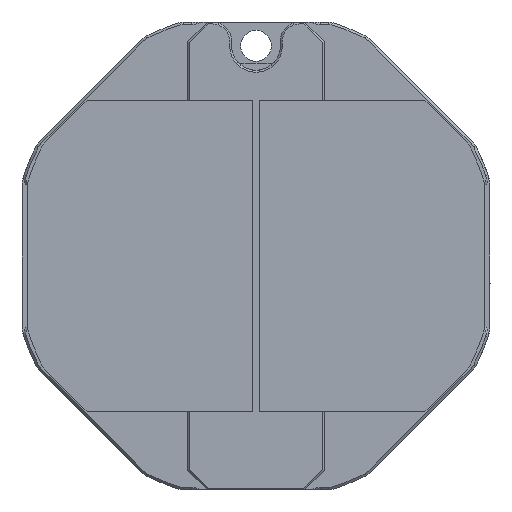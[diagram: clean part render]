
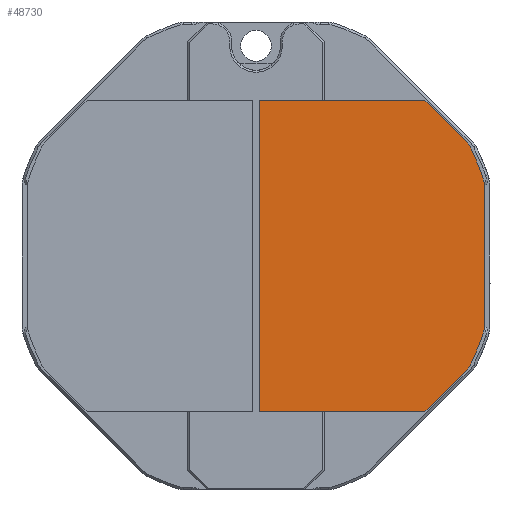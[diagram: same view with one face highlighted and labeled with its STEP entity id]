
A CAD part, left-side view. The second image highlights one B-rep face of the part: STEP entity #48730.
In plain terms, the highlighted planar face has unit normal (-1, 0, 0).
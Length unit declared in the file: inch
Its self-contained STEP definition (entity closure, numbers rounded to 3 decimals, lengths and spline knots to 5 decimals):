
#254 = DIRECTION ( 'NONE',  ( 0., -1., 0. ) ) ;
#262 = VERTEX_POINT ( 'NONE', #62951 ) ;
#369 = VECTOR ( 'NONE', #8089, 39.37008 ) ;
#786 = EDGE_CURVE ( 'NONE', #15711, #40236, #28062, .T. ) ;
#1803 = DIRECTION ( 'NONE',  ( 0., 0., 1. ) ) ;
#2812 = EDGE_CURVE ( 'NONE', #40236, #23557, #64500, .T. ) ;
#3779 = CARTESIAN_POINT ( 'NONE',  ( -5.17743, -0.23099, -1.10362 ) ) ;
#3804 = DIRECTION ( 'NONE',  ( 1., 0., 0. ) ) ;
#4089 = LINE ( 'NONE', #39516, #29197 ) ;
#5853 = VERTEX_POINT ( 'NONE', #24305 ) ;
#5890 = CIRCLE ( 'NONE', #58755, 0.2 ) ;
#6430 = AXIS2_PLACEMENT_3D ( 'NONE', #3779, #38829, #8790 ) ;
#6851 = CARTESIAN_POINT ( 'NONE',  ( -5.17743, -2.74258, 2.21958 ) ) ;
#8089 = DIRECTION ( 'NONE',  ( 0., 0.707, -0.707 ) ) ;
#8790 = DIRECTION ( 'NONE',  ( 0., 0., -1. ) ) ;
#9760 = ORIENTED_EDGE ( 'NONE', *, *, #22630, .F. ) ;
#10006 = VERTEX_POINT ( 'NONE', #22515 ) ;
#11161 = AXIS2_PLACEMENT_3D ( 'NONE', #33817, #3804, #38851 ) ;
#11216 = VECTOR ( 'NONE', #60715, 39.37008 ) ;
#11884 = DIRECTION ( 'NONE',  ( 0., 0., 1. ) ) ;
#12519 = FACE_OUTER_BOUND ( 'NONE', #32452, .T. ) ;
#13423 = DIRECTION ( 'NONE',  ( 1., 0., 0. ) ) ;
#14468 = EDGE_CURVE ( 'NONE', #10006, #36053, #4089, .T. ) ;
#14586 = EDGE_CURVE ( 'NONE', #5853, #262, #49570, .T. ) ;
#15711 = VERTEX_POINT ( 'NONE', #29109 ) ;
#16484 = EDGE_CURVE ( 'NONE', #36053, #15711, #33050, .T. ) ;
#16485 = DIRECTION ( 'NONE',  ( 0., 0., -1. ) ) ;
#16498 = VECTOR ( 'NONE', #16485, 39.37008 ) ;
#16506 = ORIENTED_EDGE ( 'NONE', *, *, #41678, .F. ) ;
#16782 = CARTESIAN_POINT ( 'NONE',  ( -5.17743, -0.23099, 2.89638 ) ) ;
#16959 = CARTESIAN_POINT ( 'NONE',  ( -5.17743, -2.92133, -0.51653 ) ) ;
#17911 = ORIENTED_EDGE ( 'NONE', *, *, #30050, .T. ) ;
#19114 = VERTEX_POINT ( 'NONE', #49397 ) ;
#19780 = VERTEX_POINT ( 'NONE', #16959 ) ;
#20617 = EDGE_CURVE ( 'NONE', #19780, #25555, #26312, .T. ) ;
#22162 = EDGE_CURVE ( 'NONE', #29600, #10006, #37370, .T. ) ;
#22515 = CARTESIAN_POINT ( 'NONE',  ( -5.17743, -2.34863, 2.89638 ) ) ;
#22630 = EDGE_CURVE ( 'NONE', #25555, #262, #28625, .T. ) ;
#23557 = VERTEX_POINT ( 'NONE', #24102 ) ;
#23879 = ORIENTED_EDGE ( 'NONE', *, *, #786, .F. ) ;
#24102 = CARTESIAN_POINT ( 'NONE',  ( -5.17743, -3.10599, 1.82509 ) ) ;
#24305 = CARTESIAN_POINT ( 'NONE',  ( -5.17743, -0.23099, -1.10362 ) ) ;
#24496 = CARTESIAN_POINT ( 'NONE',  ( -5.17743, -0.10599, 0.89638 ) ) ;
#25302 = EDGE_CURVE ( 'NONE', #19114, #19780, #36281, .T. ) ;
#25555 = VERTEX_POINT ( 'NONE', #41538 ) ;
#25707 = CARTESIAN_POINT ( 'NONE',  ( -5.17743, -0.23099, -1.10362 ) ) ;
#26258 = LINE ( 'NONE', #27099, #38020 ) ;
#26312 = CIRCLE ( 'NONE', #11161, 0.2 ) ;
#27099 = CARTESIAN_POINT ( 'NONE',  ( -5.17743, -3.10599, -1.10362 ) ) ;
#28062 = CIRCLE ( 'NONE', #61142, 3.15 ) ;
#28625 = LINE ( 'NONE', #37917, #369 ) ;
#28688 = DIRECTION ( 'NONE',  ( 1., 0., 0. ) ) ;
#29109 = CARTESIAN_POINT ( 'NONE',  ( -5.17743, -2.92133, 2.30929 ) ) ;
#29197 = VECTOR ( 'NONE', #34476, 39.37008 ) ;
#29556 = DIRECTION ( 'NONE',  ( 0., 0., 1. ) ) ;
#29600 = VERTEX_POINT ( 'NONE', #16782 ) ;
#29764 = ORIENTED_EDGE ( 'NONE', *, *, #14586, .T. ) ;
#29820 = LINE ( 'NONE', #46481, #16498 ) ;
#30050 = EDGE_CURVE ( 'NONE', #29600, #5853, #29820, .T. ) ;
#31005 = ORIENTED_EDGE ( 'NONE', *, *, #2812, .F. ) ;
#31735 = CARTESIAN_POINT ( 'NONE',  ( -5.17743, -3.09582, 1.88805 ) ) ;
#31831 = DIRECTION ( 'NONE',  ( 1., 0., 0. ) ) ;
#32452 = EDGE_LOOP ( 'NONE', ( #29764, #9760, #59831, #51769, #16506, #50861, #31005, #23879, #42281, #43749, #58334, #17911 ) ) ;
#33050 = CIRCLE ( 'NONE', #46575, 0.2 ) ;
#33817 = CARTESIAN_POINT ( 'NONE',  ( -5.17743, -2.74258, -0.42682 ) ) ;
#34476 = DIRECTION ( 'NONE',  ( 0., -0.707, -0.707 ) ) ;
#36053 = VERTEX_POINT ( 'NONE', #53890 ) ;
#36281 = CIRCLE ( 'NONE', #54709, 3.15 ) ;
#37370 = LINE ( 'NONE', #40356, #62358 ) ;
#37917 = CARTESIAN_POINT ( 'NONE',  ( -5.17743, -2.884, -0.56824 ) ) ;
#38020 = VECTOR ( 'NONE', #62068, 39.37008 ) ;
#38829 = DIRECTION ( 'NONE',  ( -1., 0., 0. ) ) ;
#38851 = DIRECTION ( 'NONE',  ( 0., 0., 1. ) ) ;
#39516 = CARTESIAN_POINT ( 'NONE',  ( -5.17743, -1.57061, 3.6744 ) ) ;
#40236 = VERTEX_POINT ( 'NONE', #31735 ) ;
#40356 = CARTESIAN_POINT ( 'NONE',  ( -5.17743, -0.23099, 2.89638 ) ) ;
#41538 = CARTESIAN_POINT ( 'NONE',  ( -5.17743, -2.884, -0.56824 ) ) ;
#41678 = EDGE_CURVE ( 'NONE', #48332, #19114, #5890, .T. ) ;
#41877 = DIRECTION ( 'NONE',  ( 1., 0., 0. ) ) ;
#42281 = ORIENTED_EDGE ( 'NONE', *, *, #16484, .F. ) ;
#43029 = EDGE_CURVE ( 'NONE', #23557, #48332, #26258, .T. ) ;
#43433 = CARTESIAN_POINT ( 'NONE',  ( -5.17743, -0.10599, 0.89638 ) ) ;
#43749 = ORIENTED_EDGE ( 'NONE', *, *, #14468, .F. ) ;
#46481 = CARTESIAN_POINT ( 'NONE',  ( -5.17743, -0.23099, -1.10362 ) ) ;
#46575 = AXIS2_PLACEMENT_3D ( 'NONE', #6851, #41877, #11884 ) ;
#48332 = VERTEX_POINT ( 'NONE', #62260 ) ;
#48446 = DIRECTION ( 'NONE',  ( 0., 0., 1. ) ) ;
#48448 = PLANE ( 'NONE',  #6430 ) ;
#48730 = ADVANCED_FACE ( 'NONE', ( #12519 ), #48448, .T. ) ;
#49397 = CARTESIAN_POINT ( 'NONE',  ( -5.17743, -3.09582, -0.09529 ) ) ;
#49570 = LINE ( 'NONE', #25707, #11216 ) ;
#50861 = ORIENTED_EDGE ( 'NONE', *, *, #43029, .F. ) ;
#51769 = ORIENTED_EDGE ( 'NONE', *, *, #25302, .F. ) ;
#52892 = AXIS2_PLACEMENT_3D ( 'NONE', #58625, #28688, #63668 ) ;
#53890 = CARTESIAN_POINT ( 'NONE',  ( -5.17743, -2.884, 2.361 ) ) ;
#54709 = AXIS2_PLACEMENT_3D ( 'NONE', #24496, #59490, #29556 ) ;
#58334 = ORIENTED_EDGE ( 'NONE', *, *, #22162, .F. ) ;
#58625 = CARTESIAN_POINT ( 'NONE',  ( -5.17743, -2.90599, 1.82509 ) ) ;
#58755 = AXIS2_PLACEMENT_3D ( 'NONE', #61796, #31831, #1803 ) ;
#59490 = DIRECTION ( 'NONE',  ( 1., 0., 0. ) ) ;
#59831 = ORIENTED_EDGE ( 'NONE', *, *, #20617, .F. ) ;
#60715 = DIRECTION ( 'NONE',  ( 0., -1., 0. ) ) ;
#61142 = AXIS2_PLACEMENT_3D ( 'NONE', #43433, #13423, #48446 ) ;
#61796 = CARTESIAN_POINT ( 'NONE',  ( -5.17743, -2.90599, -0.03233 ) ) ;
#62068 = DIRECTION ( 'NONE',  ( 0., 0., -1. ) ) ;
#62260 = CARTESIAN_POINT ( 'NONE',  ( -5.17743, -3.10599, -0.03233 ) ) ;
#62358 = VECTOR ( 'NONE', #254, 39.37008 ) ;
#62951 = CARTESIAN_POINT ( 'NONE',  ( -5.17743, -2.34863, -1.10362 ) ) ;
#63668 = DIRECTION ( 'NONE',  ( 0., 0., 1. ) ) ;
#64500 = CIRCLE ( 'NONE', #52892, 0.2 ) ;
